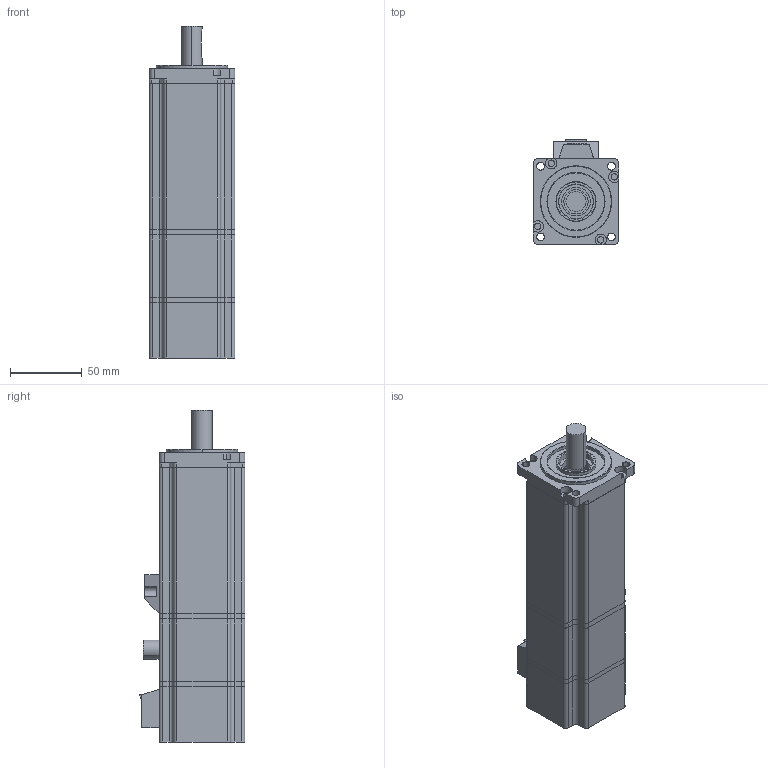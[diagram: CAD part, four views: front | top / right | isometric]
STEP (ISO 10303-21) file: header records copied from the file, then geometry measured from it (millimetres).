
FILE_DESCRIPTION (( 'STEP AP203' ), '1' );
FILE_NAME ('60-01930Z.STEP', '2020-03-08T12:42:12', ( '' ), ( '' ), 'SwSTEP 2.0', 'SolidWorks 2016', '' );
FILE_SCHEMA (( 'CONFIG_CONTROL_DESIGN' ));
Length unit declared in the file: millimetre
Products named in the file (11): 60-01930Z; 60惕掅綴裔; 60晤鎢ん; 60-1.9N隅赽; 60惕掅儂褲; 60ヶ裔; 萇儂裔啣; 60粣; 60晤鎢ん裔啣; 惕掅芛; 60綴裔
Assembly tree (10 placements, depth 2):
  60-01930Z
    60-1.9N隅赽
    60ヶ裔
    60綴裔
    60粣
    萇儂裔啣
    60晤鎢ん
    60晤鎢ん裔啣
    60惕掅綴裔
    60惕掅儂褲
    惕掅芛
Bounding box: 60 x 74 x 232 mm (x, y, z)
Volume: 302400.5 mm3; surface area: 118149.2 mm2
Topology: 13 solids, 13 shells, 391 faces, 1010 edges, 668 vertices
Faces by surface type: cylinder 223, plane 156, torus 8, cone 2, bspline 2
Entity records: 13483 total; most frequent: DIRECTION 2270, CARTESIAN_POINT 2148, ORIENTED_EDGE 2020, EDGE_CURVE 1010, AXIS2_PLACEMENT_3D 864, VERTEX_POINT 668, LINE 542, VECTOR 542
